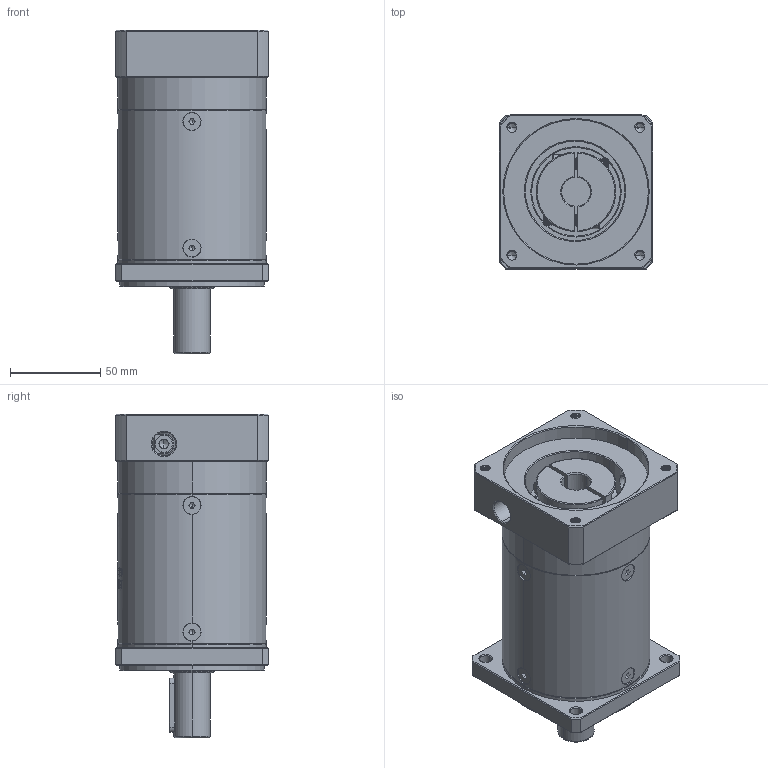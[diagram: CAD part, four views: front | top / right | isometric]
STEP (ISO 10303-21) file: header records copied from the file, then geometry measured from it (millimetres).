
FILE_DESCRIPTION (( 'STEP AP214' ), '1' );
FILE_NAME ('ZF080-D20-L3-P2-16-80-100-M6.step', '2023-08-19T05:30:13', ( '' ), ( '' ), 'SwSTEP 2.0', 'SolidWorks 2016', '' );
FILE_SCHEMA (( 'AUTOMOTIVE_DESIGN' ));
Length unit declared in the file: millimetre
Products named in the file (1): ZF080-D20-L3-P2-16-80-100-M6
Bounding box: 85 x 85 x 179 mm (x, y, z)
Volume: 741897.9 mm3; surface area: 98910.7 mm2
Topology: 13 solids, 13 shells, 2230 faces, 5833 edges, 3702 vertices
Faces by surface type: plane 1071, bspline 394, cylinder 390, cone 338, torus 37
Entity records: 119004 total; most frequent: CARTESIAN_POINT 44701, ORIENTED_EDGE 11606, DIRECTION 8605, EDGE_CURVE 5803, VERTEX_POINT 3702, LINE 3087, VECTOR 3087, AXIS2_PLACEMENT_3D 2759
